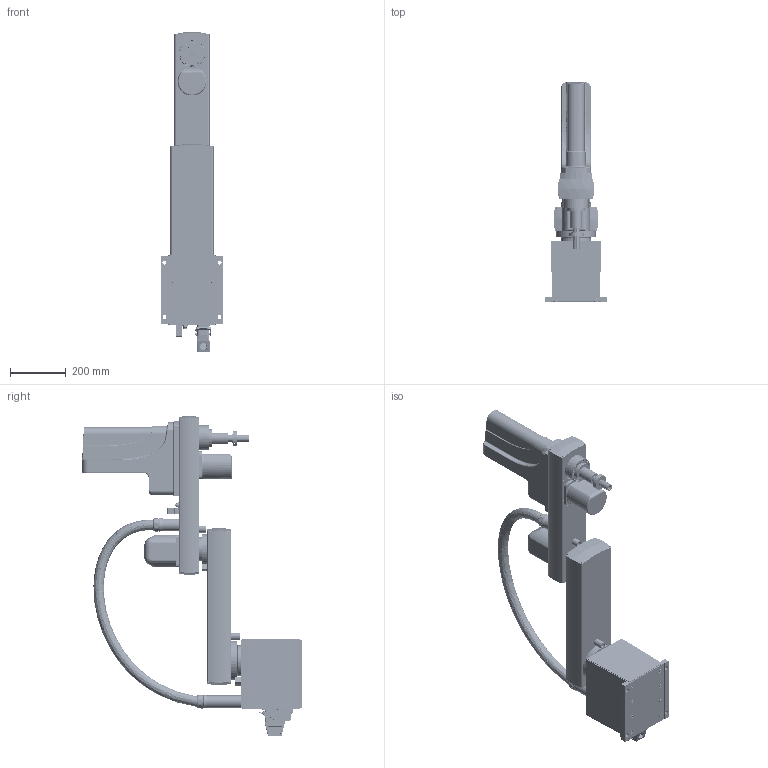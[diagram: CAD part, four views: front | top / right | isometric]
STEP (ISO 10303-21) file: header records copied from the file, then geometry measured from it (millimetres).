
FILE_DESCRIPTION (( 'STEP AP214' ), '1' );
FILE_NAME ('TKS800潠眢耀倰.STEP', '2018-07-11T01:12:55', ( 'wk' ), ( '' ), 'SwSTEP 2.0', 'SolidWorks 2017', '' );
FILE_SCHEMA (( 'AUTOMOTIVE_DESIGN' ));
Length unit declared in the file: millimetre
Products named in the file (6): TKS800三轴; TKS800盄擢; TKS800媼粣; TKS800珨粣; TKS800潠眢耀倰; TKS800侐粣
Assembly tree (5 placements, depth 2):
  TKS800潠眢耀倰
    TKS800珨粣
    TKS800媼粣
    TKS800三轴
    TKS800侐粣
    TKS800盄擢
Bounding box: 220 x 788 x 1149 mm (x, y, z)
Volume: 12063179.9 mm3; surface area: 3086708.3 mm2
Topology: 67 solids, 109 shells, 5774 faces, 14772 edges, 9195 vertices
Faces by surface type: cylinder 2320, plane 1619, cone 638, bspline 544, sphere 348, torus 305
Entity records: 275719 total; most frequent: CARTESIAN_POINT 75130, ORIENTED_EDGE 28640, DIRECTION 27982, EDGE_CURVE 14320, AXIS2_PLACEMENT_3D 11223, VERTEX_POINT 9187, EDGE_LOOP 6947, CIRCLE 5985
